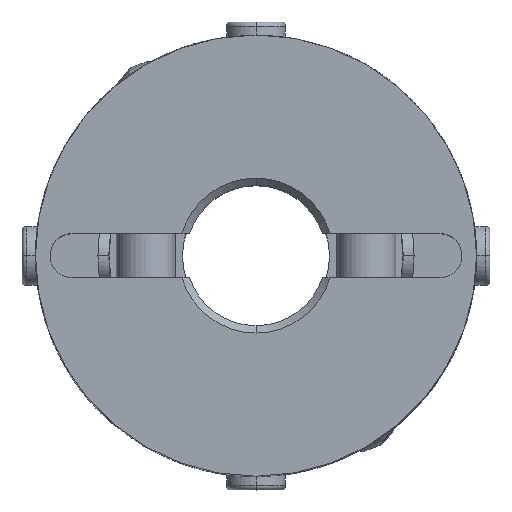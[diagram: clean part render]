
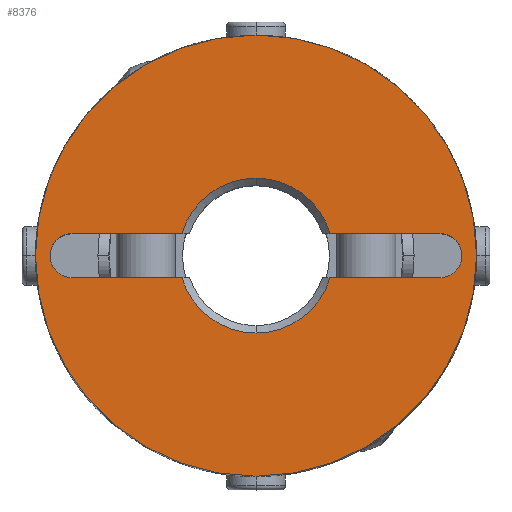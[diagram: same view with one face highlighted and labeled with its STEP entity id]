
A CAD part, top view. The second image highlights one B-rep face of the part: STEP entity #8376.
In plain terms, the highlighted planar face has unit normal (0, 0, 1).
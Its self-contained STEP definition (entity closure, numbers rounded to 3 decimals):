
#649=CARTESIAN_POINT('',(0.,5.263,15.0));
#650=VERTEX_POINT('',#649);
#666=CARTESIAN_POINT('',(5.044,1.5,15.0));
#667=VERTEX_POINT('',#666);
#681=CARTESIAN_POINT('',(0.,0.,15.0));
#682=DIRECTION('',(0.0,0.0,1.0));
#683=DIRECTION('',(0.0,1.0,0.0));
#684=AXIS2_PLACEMENT_3D('',#681,#682,#683);
#685=CIRCLE('',#684,5.263);
#686=EDGE_CURVE('',#667,#650,#685,.T.);
#696=CARTESIAN_POINT('',(0.,-5.262,15.0));
#697=VERTEX_POINT('',#696);
#706=CARTESIAN_POINT('',(5.044,-1.5,15.0));
#707=VERTEX_POINT('',#706);
#708=CARTESIAN_POINT('',(0.,0.,15.0));
#709=DIRECTION('',(0.0,0.0,1.0));
#710=DIRECTION('',(0.0,1.0,0.0));
#711=AXIS2_PLACEMENT_3D('',#708,#709,#710);
#712=CIRCLE('',#711,5.263);
#713=EDGE_CURVE('',#697,#707,#712,.T.);
#872=CARTESIAN_POINT('',(-13.561,-1.061,15.0));
#873=VERTEX_POINT('',#872);
#889=CARTESIAN_POINT('',(-12.5,1.5,15.0));
#890=VERTEX_POINT('',#889);
#897=CARTESIAN_POINT('',(-12.5,0.,15.0));
#898=DIRECTION('',(0.0,0.0,1.0));
#899=DIRECTION('',(-0.707,0.707,0.0));
#900=AXIS2_PLACEMENT_3D('',#897,#898,#899);
#901=CIRCLE('',#900,1.5);
#902=EDGE_CURVE('',#890,#873,#901,.T.);
#914=CARTESIAN_POINT('',(13.561,-1.061,15.0));
#915=VERTEX_POINT('',#914);
#931=CARTESIAN_POINT('',(12.5,-1.5,15.0));
#932=VERTEX_POINT('',#931);
#939=CARTESIAN_POINT('',(12.5,0.,15.0));
#940=DIRECTION('',(0.0,0.0,1.0));
#941=DIRECTION('',(0.707,-0.707,0.0));
#942=AXIS2_PLACEMENT_3D('',#939,#940,#941);
#943=CIRCLE('',#942,1.5);
#944=EDGE_CURVE('',#932,#915,#943,.T.);
#1489=CARTESIAN_POINT('',(0.,-15.,15.0));
#1490=VERTEX_POINT('',#1489);
#1497=CARTESIAN_POINT('',(0.,15.0,15.0));
#1498=VERTEX_POINT('',#1497);
#1499=CARTESIAN_POINT('',(0.,0.,15.0));
#1500=DIRECTION('',(0.0,0.0,-1.0));
#1501=DIRECTION('',(0.0,1.0,0.0));
#1502=AXIS2_PLACEMENT_3D('',#1499,#1500,#1501);
#1503=CIRCLE('',#1502,15.0);
#1504=EDGE_CURVE('',#1490,#1498,#1503,.T.);
#7577=CARTESIAN_POINT('',(0.,0.,15.0));
#7578=DIRECTION('',(0.0,0.0,-1.0));
#7579=DIRECTION('',(0.0,1.0,0.0));
#7580=AXIS2_PLACEMENT_3D('',#7577,#7578,#7579);
#7581=CIRCLE('',#7580,15.0);
#7582=EDGE_CURVE('',#1498,#1490,#7581,.T.);
#8142=CARTESIAN_POINT('',(12.5,1.5,15.0));
#8143=VERTEX_POINT('',#8142);
#8150=CARTESIAN_POINT('',(5.044,1.5,15.0));
#8151=DIRECTION('',(1.0,0.0,0.0));
#8152=VECTOR('',#8151,7.456);
#8153=LINE('',#8150,#8152);
#8154=EDGE_CURVE('',#667,#8143,#8153,.T.);
#8178=CARTESIAN_POINT('',(12.5,0.,15.0));
#8179=DIRECTION('',(0.0,0.0,1.0));
#8180=DIRECTION('',(0.707,-0.707,0.0));
#8181=AXIS2_PLACEMENT_3D('',#8178,#8179,#8180);
#8182=CIRCLE('',#8181,1.5);
#8183=EDGE_CURVE('',#915,#8143,#8182,.T.);
#8196=CARTESIAN_POINT('',(-12.5,-1.5,15.0));
#8197=VERTEX_POINT('',#8196);
#8198=CARTESIAN_POINT('',(-12.5,0.,15.0));
#8199=DIRECTION('',(0.0,0.0,1.0));
#8200=DIRECTION('',(-0.707,0.707,0.0));
#8201=AXIS2_PLACEMENT_3D('',#8198,#8199,#8200);
#8202=CIRCLE('',#8201,1.5);
#8203=EDGE_CURVE('',#873,#8197,#8202,.T.);
#8236=CARTESIAN_POINT('',(-5.044,1.5,15.0));
#8237=VERTEX_POINT('',#8236);
#8251=CARTESIAN_POINT('',(-12.5,1.5,15.0));
#8252=DIRECTION('',(1.0,0.0,0.0));
#8253=VECTOR('',#8252,7.456);
#8254=LINE('',#8251,#8253);
#8255=EDGE_CURVE('',#890,#8237,#8254,.T.);
#8270=CARTESIAN_POINT('',(-5.044,-1.5,15.0));
#8271=VERTEX_POINT('',#8270);
#8272=CARTESIAN_POINT('',(-5.044,-1.5,15.0));
#8273=DIRECTION('',(-1.0,0.0,0.0));
#8274=VECTOR('',#8273,7.456);
#8275=LINE('',#8272,#8274);
#8276=EDGE_CURVE('',#8271,#8197,#8275,.T.);
#8328=CARTESIAN_POINT('',(12.5,-1.5,15.0));
#8329=DIRECTION('',(-1.0,0.0,0.0));
#8330=VECTOR('',#8329,7.456);
#8331=LINE('',#8328,#8330);
#8332=EDGE_CURVE('',#932,#707,#8331,.T.);
#8341=CARTESIAN_POINT('',(0.,1.364,15.0));
#8342=DIRECTION('',(0.0,0.0,1.0));
#8343=DIRECTION('',(0.0,1.0,0.0));
#8344=AXIS2_PLACEMENT_3D('',#8341,#8342,#8343);
#8345=PLANE('',#8344);
#8346=ORIENTED_EDGE('',*,*,#7582,.F.);
#8347=ORIENTED_EDGE('',*,*,#1504,.F.);
#8348=EDGE_LOOP('',(#8346,#8347));
#8349=FACE_OUTER_BOUND('',#8348,.T.);
#8350=ORIENTED_EDGE('',*,*,#8154,.T.);
#8351=ORIENTED_EDGE('',*,*,#8183,.F.);
#8352=ORIENTED_EDGE('',*,*,#944,.F.);
#8353=ORIENTED_EDGE('',*,*,#8332,.T.);
#8354=ORIENTED_EDGE('',*,*,#713,.F.);
#8355=CARTESIAN_POINT('',(0.,0.,15.0));
#8356=DIRECTION('',(0.0,0.0,1.0));
#8357=DIRECTION('',(0.0,1.0,0.0));
#8358=AXIS2_PLACEMENT_3D('',#8355,#8356,#8357);
#8359=CIRCLE('',#8358,5.263);
#8360=EDGE_CURVE('',#8271,#697,#8359,.T.);
#8361=ORIENTED_EDGE('',*,*,#8360,.F.);
#8362=ORIENTED_EDGE('',*,*,#8276,.T.);
#8363=ORIENTED_EDGE('',*,*,#8203,.F.);
#8364=ORIENTED_EDGE('',*,*,#902,.F.);
#8365=ORIENTED_EDGE('',*,*,#8255,.T.);
#8366=CARTESIAN_POINT('',(0.,0.,15.0));
#8367=DIRECTION('',(0.0,0.0,1.0));
#8368=DIRECTION('',(0.0,1.0,0.0));
#8369=AXIS2_PLACEMENT_3D('',#8366,#8367,#8368);
#8370=CIRCLE('',#8369,5.263);
#8371=EDGE_CURVE('',#650,#8237,#8370,.T.);
#8372=ORIENTED_EDGE('',*,*,#8371,.F.);
#8373=ORIENTED_EDGE('',*,*,#686,.F.);
#8374=EDGE_LOOP('',(#8350,#8351,#8352,#8353,#8354,#8361,#8362,#8363,#8364,#8365,#8372,#8373));
#8375=FACE_BOUND('',#8374,.T.);
#8376=ADVANCED_FACE('',(#8349,#8375),#8345,.T.);
